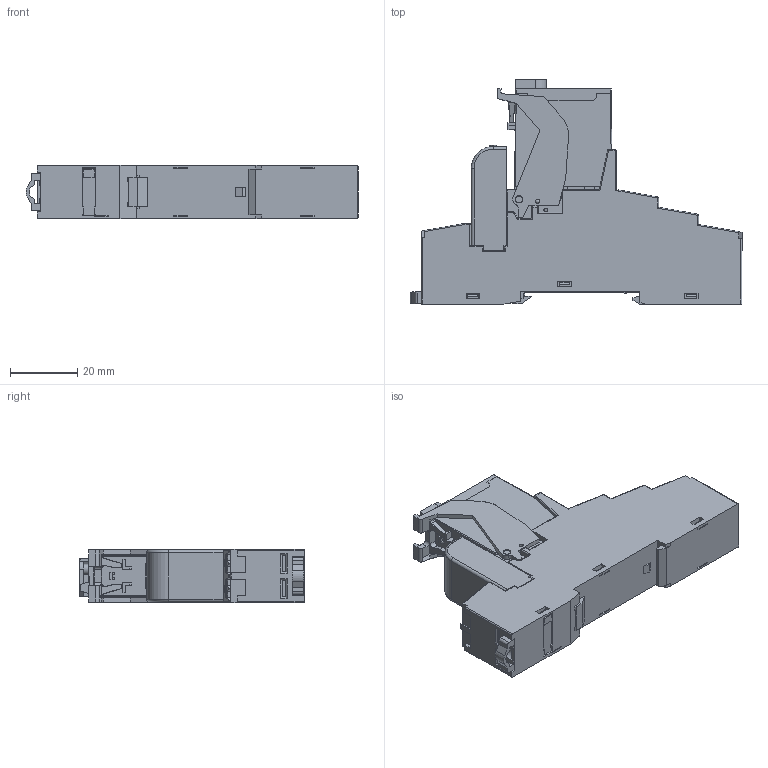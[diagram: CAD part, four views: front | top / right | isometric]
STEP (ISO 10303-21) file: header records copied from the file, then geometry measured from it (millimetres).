
FILE_DESCRIPTION(/* description */ ('Unknown'),/* implementation_level */ '2;1');
FILE_NAME(/* name */ '4CP1',/* time_stamp */ '2016-02-03T10:51:35+01:00',/* author */ ('Unknown'),/* organization */ ('Unknown'),/* preprocessor_version */ 'ST-DEVELOPER v16',/* originating_system */ 'DEX',/* authorisation */ $);
FILE_SCHEMA (('AP242_MANAGED_MODEL_BASED_3D_ENGINEERING_MIM_LF { 1 0 10303 442 1 1 4 }','AUTOMOTIVE_DESIGN {1 0 10303 214 3 1 1}'));
Products named in the file (2): 4CP1; top
Assembly tree (1 placements, depth 2):
  4CP1
    top
Bounding box: 98.9 x 66.79 x 15.8 mm (x, y, z)
Volume: 34249.2 mm3; surface area: 27605.2 mm2
Topology: 1 solids, 447 shells, 2431 faces, 7847 edges, 5829 vertices
Faces by surface type: plane 1881, cylinder 432, torus 57, cone 45, sphere 14, bspline 2
Full cylindrical faces by diameter (mm): 1.2 x6, 1.5 x5, 2 x2, 2.1 x5, 2.2 x2, 3 x3
Entity records: 90180 total; most frequent: CARTESIAN_POINT 17988, DIRECTION 13382, ORIENTED_EDGE 13359, EDGE_CURVE 7803, LINE 6504, VECTOR 6504, VERTEX_POINT 5826, AXIS2_PLACEMENT_3D 3439
